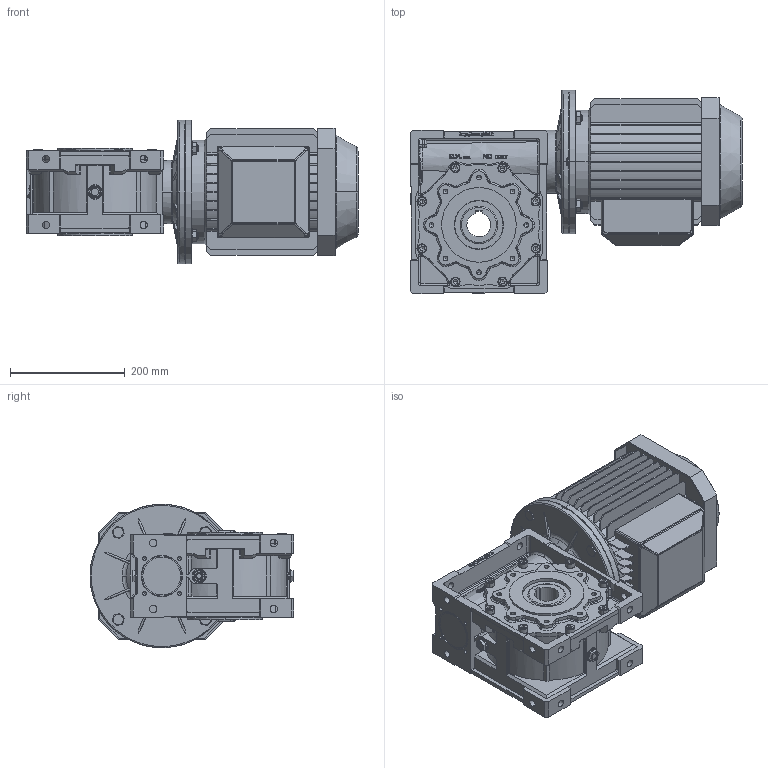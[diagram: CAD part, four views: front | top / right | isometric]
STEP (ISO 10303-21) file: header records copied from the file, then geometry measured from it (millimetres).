
FILE_DESCRIPTION((''),'2;1');
FILE_NAME('D:\_Assiemi MV\_File Sito\110\STP\MV110_B5-112.stp','2005-07-26T08:18:15',('tech2'),(''),'Autodesk Inventor 9','Autodesk Inventor 9','');
FILE_SCHEMA(('AUTOMOTIVE_DESIGN { 1 0 10303 214 1 1 1 1 }'));
Length unit declared in the file: millimetre
Products named in the file (16): MV110_B5-112; 4011001-A0; 4011004-A0; UNI 5931  (Filetto fine) M10 x  1.25 x  25; 4011008-A0; UNI-ISO 6194-1 (4) Tipo4 65 x  85 x  10; Capp-72-7; Guarnizione-tappo-3-8-gas; Tappo-3-8-gas-nero; Paraolio-50-80-7; FM-90-110-D=250; UNI 5739  (Filetto regolare) M12 x 30; UNI 5589  (Filetto regolare) M12; UNI 8836 13 x 24; motori B5 112
Assembly tree (36 placements, depth 3):
  MV110_B5-112
    4011001-A0
    4011004-A0
    UNI 5931  (Filetto fine) M10 x  1.25 x  25  x8
    4011008-A0
    UNI-ISO 6194-1 (4) Tipo4 65 x  85 x  10  x2
    Capp-72-7
    Guarnizione-tappo-3-8-gas  x3
    Tappo-3-8-gas-nero  x3
    Paraolio-50-80-7
    FM-90-110-D=250
      FM-90-110-D=250
      UNI 5739  (Filetto regolare) M12 x 30  x4
      UNI 5589  (Filetto regolare) M12  x4
      UNI 8836 13 x 24  x4
    motori B5 112
Bounding box: 578 x 355 x 250 mm (x, y, z)
Volume: 16937280.5 mm3; surface area: 1509340.7 mm2
Topology: 43 solids, 43 shells, 3916 faces, 10133 edges, 6410 vertices
Faces by surface type: plane 1466, cylinder 1056, bspline 1029, cone 277, torus 84, sphere 4
Entity records: 131198 total; most frequent: CARTESIAN_POINT 47495, ORIENTED_EDGE 18140, DIRECTION 16570, EDGE_CURVE 9070, AXIS2_PLACEMENT_3D 5938, VERTEX_POINT 5818, VECTOR 4694, LINE 4694
